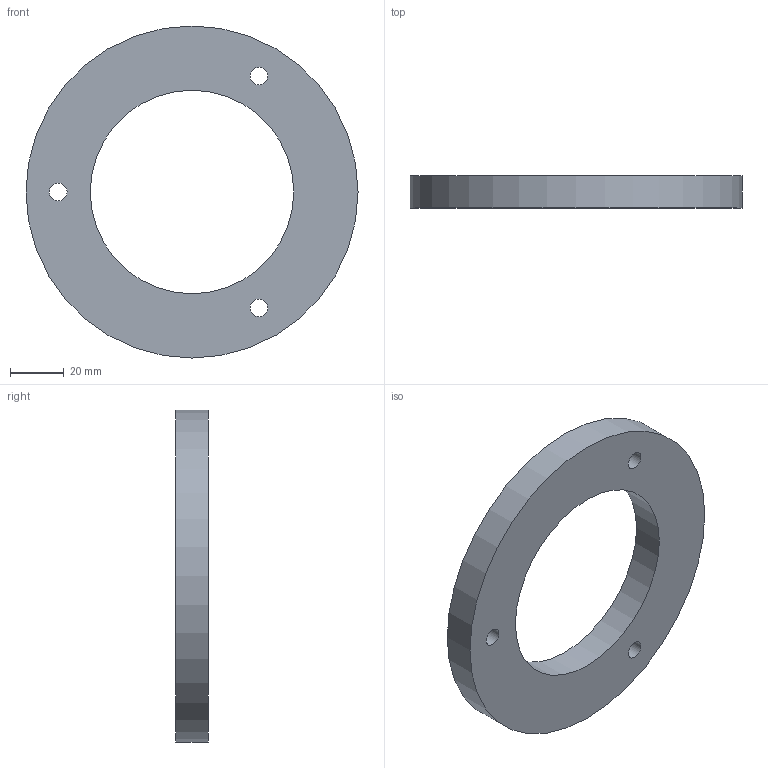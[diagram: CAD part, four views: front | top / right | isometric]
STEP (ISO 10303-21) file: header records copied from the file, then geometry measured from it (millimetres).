
FILE_DESCRIPTION(/* description */ (''),/* implementation_level */ '2;1');
FILE_NAME(/* name */ 'C:\Users\strothej\Documents\ActualDocuments\MicroscopeParts\TwoPhotonSystem\ScanningMechanics\v30\Drawings\Support_Rotation_Nut_Ring.stp',/* time_stamp */ '2017-06-28T15:02:04-07:00',/* author */ ('strothej'),/* organization */ (''),/* preprocessor_version */ 'ST-DEVELOPER v16.1',/* originating_system */ 'Autodesk Inventor 2016',/* authorisation */ '');
FILE_SCHEMA (('AUTOMOTIVE_DESIGN { 1 0 10303 214 3 1 1 }'));
Length unit declared in the file: millimetre
Products named in the file (1): Support_Rotation_Nut_Ring
Bounding box: 124 x 12 x 124 mm (x, y, z)
Volume: 89228.6 mm3; surface area: 23163 mm2
Topology: 1 solids, 1 shells, 7 faces, 18 edges, 13 vertices
Faces by surface type: cylinder 5, plane 2
Full cylindrical faces by diameter (mm): 6.647 x3, 76 x1, 124 x1
Entity records: 214 total; most frequent: DIRECTION 36, CARTESIAN_POINT 28, EDGE_LOOP 20, ORIENTED_EDGE 20, AXIS2_PLACEMENT_3D 18, FACE_BOUND 13, CIRCLE 10, VERTEX_POINT 10
